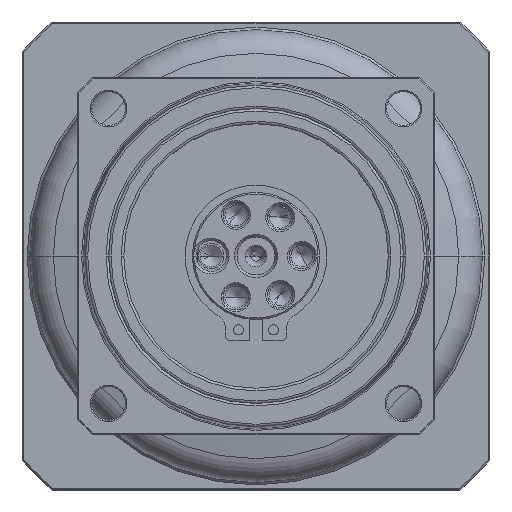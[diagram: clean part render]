
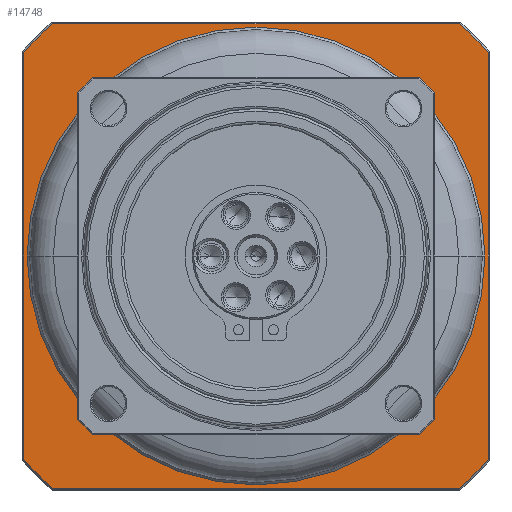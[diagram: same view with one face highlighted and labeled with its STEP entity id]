
A CAD part, left-side view. The second image highlights one B-rep face of the part: STEP entity #14748.
In plain terms, the highlighted planar face has unit normal (-1, 0, 0) as drawn and (0, 0, -1) by its records, which use the part's own axes.
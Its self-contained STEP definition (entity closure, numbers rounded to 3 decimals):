
#13595=CARTESIAN_POINT('',(0.,0.,
2.5));
#13596=DIRECTION('',(0.,0.,-1.));
#13597=DIRECTION('',(0.,-1.,0.));
#13598=AXIS2_PLACEMENT_3D('',#13595,#13596,#13597);
#13600=CARTESIAN_POINT('',(0.,0.,
2.5));
#13601=DIRECTION('',(0.,0.,-1.));
#13602=DIRECTION('',(0.,1.,0.));
#13603=AXIS2_PLACEMENT_3D('',#13600,#13601,#13602);
#13605=CARTESIAN_POINT('',(0.,0.,2.5));
#13606=DIRECTION('',(0.,0.,1.));
#13607=DIRECTION('',(-0.753,-0.658,0.));
#13608=AXIS2_PLACEMENT_3D('',#13605,#13606,#13607);
#13610=DIRECTION('',(1.,0.,0.));
#13611=VECTOR('',#13610,79.9);
#13612=CARTESIAN_POINT('',(-39.95,-45.7,
2.5));
#13613=LINE('',#13612,#13611);
#13614=CARTESIAN_POINT('',(0.,0.,2.5));
#13615=DIRECTION('',(0.,0.,1.));
#13616=DIRECTION('',(0.658,-0.753,0.));
#13617=AXIS2_PLACEMENT_3D('',#13614,#13615,#13616);
#13619=DIRECTION('',(0.,1.,0.));
#13620=VECTOR('',#13619,79.9);
#13621=CARTESIAN_POINT('',(45.7,-39.95,
2.5));
#13622=LINE('',#13621,#13620);
#13623=CARTESIAN_POINT('',(0.,0.,2.5));
#13624=DIRECTION('',(0.,0.,1.));
#13625=DIRECTION('',(0.753,0.658,0.));
#13626=AXIS2_PLACEMENT_3D('',#13623,#13624,#13625);
#13628=DIRECTION('',(-1.,0.,0.));
#13629=VECTOR('',#13628,79.9);
#13630=CARTESIAN_POINT('',(39.95,45.7,2.5));
#13631=LINE('',#13630,#13629);
#13632=CARTESIAN_POINT('',(0.,0.,2.5));
#13633=DIRECTION('',(0.,0.,1.));
#13634=DIRECTION('',(-0.658,0.753,0.));
#13635=AXIS2_PLACEMENT_3D('',#13632,#13633,#13634);
#13637=DIRECTION('',(0.,-1.,0.));
#13638=VECTOR('',#13637,79.9);
#13639=CARTESIAN_POINT('',(-45.7,39.95,
2.5));
#13640=LINE('',#13639,#13638);
#14395=CARTESIAN_POINT('',(0.,-45.,2.5));
#14396=CARTESIAN_POINT('',(0.,45.,
2.5));
#14397=VERTEX_POINT('',#14395);
#14398=VERTEX_POINT('',#14396);
#14459=CARTESIAN_POINT('',(-45.7,-39.95,2.5));
#14460=CARTESIAN_POINT('',(-39.95,-45.7,2.5));
#14461=VERTEX_POINT('',#14459);
#14462=VERTEX_POINT('',#14460);
#14467=CARTESIAN_POINT('',(39.95,-45.7,
2.5));
#14468=VERTEX_POINT('',#14467);
#14471=CARTESIAN_POINT('',(45.7,-39.95,2.5));
#14472=VERTEX_POINT('',#14471);
#14475=CARTESIAN_POINT('',(45.7,39.95,2.5));
#14476=VERTEX_POINT('',#14475);
#14479=CARTESIAN_POINT('',(39.95,45.7,2.5));
#14480=VERTEX_POINT('',#14479);
#14483=CARTESIAN_POINT('',(-39.95,45.7,
2.5));
#14484=VERTEX_POINT('',#14483);
#14489=CARTESIAN_POINT('',(-45.7,39.95,2.5));
#14490=VERTEX_POINT('',#14489);
#14720=CARTESIAN_POINT('',(0.,0.,2.5));
#14721=DIRECTION('',(0.,0.,1.));
#14722=DIRECTION('',(0.,1.,0.));
#14723=AXIS2_PLACEMENT_3D('',#14720,#14721,#14722);
#14724=PLANE('',#14723);
#14726=ORIENTED_EDGE('',*,*,#14725,.T.);
#14728=ORIENTED_EDGE('',*,*,#14727,.T.);
#14730=ORIENTED_EDGE('',*,*,#14729,.T.);
#14732=ORIENTED_EDGE('',*,*,#14731,.T.);
#14734=ORIENTED_EDGE('',*,*,#14733,.T.);
#14736=ORIENTED_EDGE('',*,*,#14735,.T.);
#14738=ORIENTED_EDGE('',*,*,#14737,.T.);
#14740=ORIENTED_EDGE('',*,*,#14739,.T.);
#14741=EDGE_LOOP('',(#14726,#14728,#14730,#14732,#14734,#14736,#14738,#14740));
#14742=FACE_OUTER_BOUND('',#14741,.F.);
#14744=ORIENTED_EDGE('',*,*,#14743,.T.);
#14745=ORIENTED_EDGE('',*,*,#14710,.T.);
#14746=EDGE_LOOP('',(#14744,#14745));
#14747=FACE_BOUND('',#14746,.F.);
#14748=ADVANCED_FACE('',(#14742,#14747),#14724,.F.);
#13599=CIRCLE('',#13598,45.);
#13604=CIRCLE('',#13603,45.);
#13609=CIRCLE('',#13608,60.7);
#13618=CIRCLE('',#13617,60.7);
#13627=CIRCLE('',#13626,60.7);
#13636=CIRCLE('',#13635,60.7);
#14710=EDGE_CURVE('',#14398,#14397,#13604,.T.);
#14725=EDGE_CURVE('',#14461,#14462,#13609,.T.);
#14727=EDGE_CURVE('',#14462,#14468,#13613,.T.);
#14729=EDGE_CURVE('',#14468,#14472,#13618,.T.);
#14731=EDGE_CURVE('',#14472,#14476,#13622,.T.);
#14733=EDGE_CURVE('',#14476,#14480,#13627,.T.);
#14735=EDGE_CURVE('',#14480,#14484,#13631,.T.);
#14737=EDGE_CURVE('',#14484,#14490,#13636,.T.);
#14739=EDGE_CURVE('',#14490,#14461,#13640,.T.);
#14743=EDGE_CURVE('',#14397,#14398,#13599,.T.);
